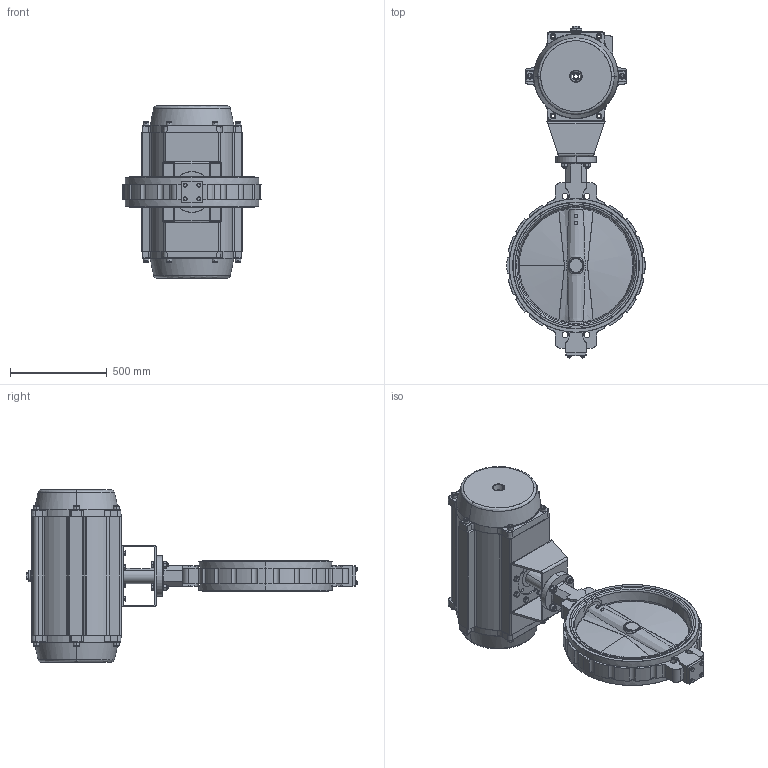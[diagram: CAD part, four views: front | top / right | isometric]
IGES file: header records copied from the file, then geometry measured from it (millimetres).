
Start section: SolidWorks IGES file using analytic representation for surfaces
Global section: file name: H:\BE BIBLIOTHEQUE 3D\BE SECTION 01 - ROBINETS A PAPILLON_VANNES PASSAGE DIRECTE\VP - Vanne Papillon\VPE\WORLDVALVE\WAFER\TECLARGE\VPE440X-N07\DN600\VPE440X-N07XX0600.IGS; native system: SolidWorks 2017; preprocessor: SolidWorks 2017; author: k.gigout; date: 200904.105659; units: millimetre
Bounding box: 715 x 1716 x 890 mm (x, y, z)
Surface area: 4659335.1 mm2 (no closed solid volume)
Topology: 0 solids, 0 shells, 881 faces, 17598 edges, 17590 vertices
Faces by surface type: bspline 488, revolution 393
